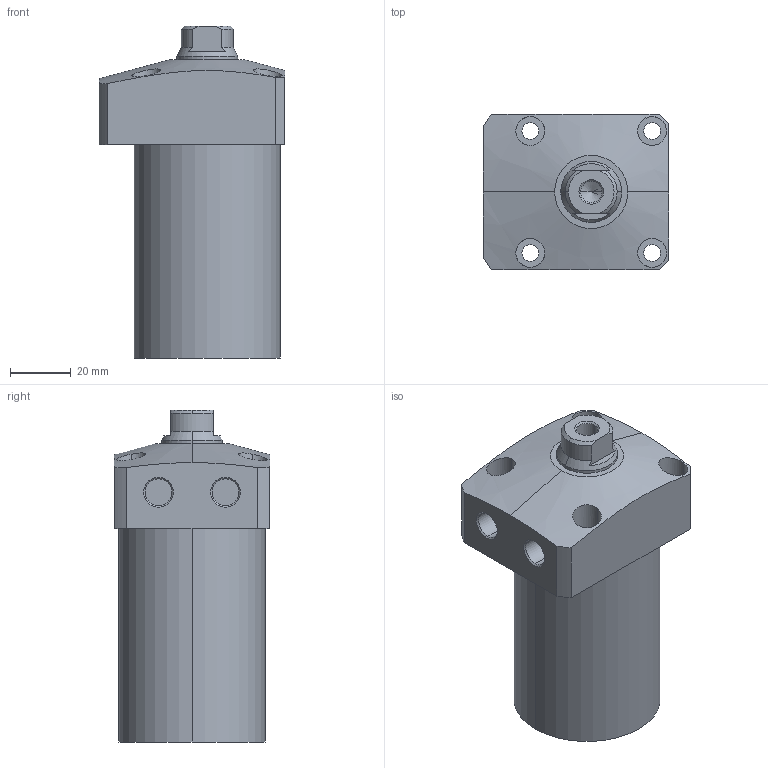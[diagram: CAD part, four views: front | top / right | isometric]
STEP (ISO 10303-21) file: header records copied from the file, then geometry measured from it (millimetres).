
FILE_DESCRIPTION (( 'STEP AP203' ), '1' );
FILE_NAME ('CLL-0480-CA-60.STEP', '2017-05-09T02:29:32', ( '' ), ( '' ), 'SwSTEP 2.0', 'SolidWorks 2015', '' );
FILE_SCHEMA (( 'CONFIG_CONTROL_DESIGN' ));
Length unit declared in the file: millimetre
Products named in the file (1): CLL-0480-CA-60
Bounding box: 61 x 51 x 109 mm (x, y, z)
Volume: 201273.8 mm3; surface area: 25120.6 mm2
Topology: 1 solids, 1 shells, 72 faces, 169 edges, 108 vertices
Faces by surface type: cylinder 35, plane 22, cone 15
Entity records: 2479 total; most frequent: CARTESIAN_POINT 714, DIRECTION 366, ORIENTED_EDGE 334, EDGE_CURVE 167, AXIS2_PLACEMENT_3D 150, VERTEX_POINT 108, EDGE_LOOP 91, CIRCLE 77
